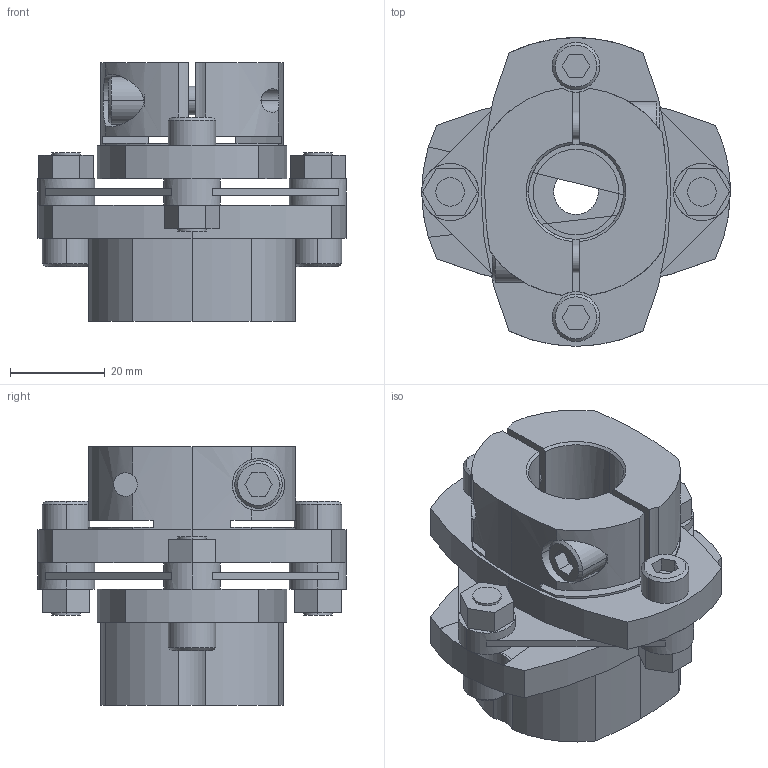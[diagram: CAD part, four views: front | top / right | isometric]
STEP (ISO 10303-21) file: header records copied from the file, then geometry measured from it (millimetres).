
FILE_DESCRIPTION((''),'2;1');
FILE_NAME('LCS-65M-11L亊20B.stp','2011-08-20T15:51:17',(''),(''),'AutoCAD STEP 2000i','AutoCAD 2000i',', , ');
FILE_SCHEMA(('CONFIG_CONTROL_DESIGN'));
Length unit declared in the file: millimetre
Products named in the file (7): LCS-65M-11L×16B; 忣兜1; LC65-B016; LC65M-L011; LC65-B014-1; LC65-B014; LCS65-ITA
Assembly tree (6 placements, depth 2):
  LCS-65M-11L×16B
    忣兜1
    LC65-B016
    LC65M-L011
    LC65-B014-1
    LC65-B014
    LCS65-ITA
Bounding box: 65 x 65 x 54.5 mm (x, y, z)
Volume: 75618.3 mm3; surface area: 26529.1 mm2
Topology: 1 solids, 1 shells, 228 faces, 602 edges, 394 vertices
Faces by surface type: plane 115, cylinder 92, cone 21
Entity records: 7573 total; most frequent: CARTESIAN_POINT 1539, DIRECTION 1288, ORIENTED_EDGE 1204, EDGE_CURVE 602, AXIS2_PLACEMENT_3D 473, VERTEX_POINT 394, VECTOR 342, LINE 342
